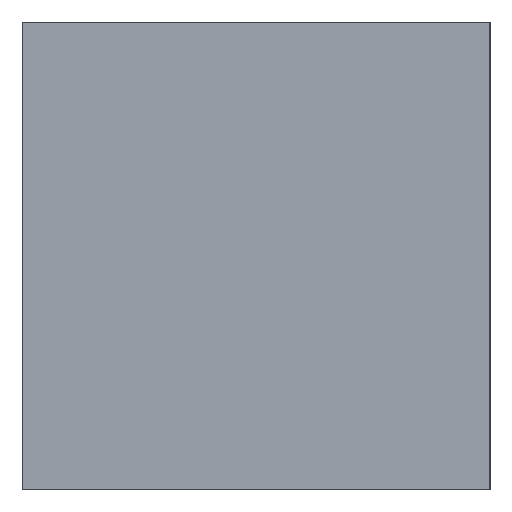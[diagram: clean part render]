
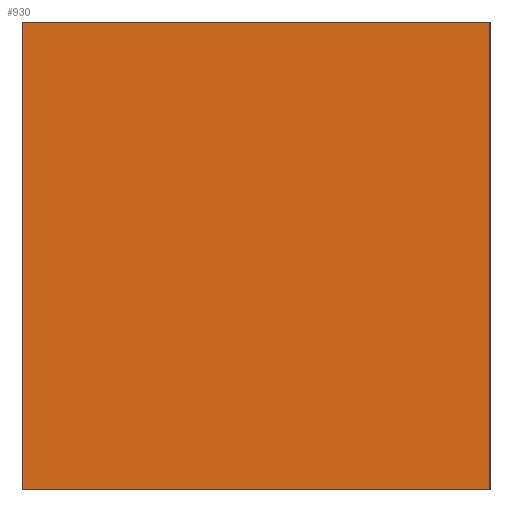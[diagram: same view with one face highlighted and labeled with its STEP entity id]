
A CAD part, left-side view. The second image highlights one B-rep face of the part: STEP entity #930.
In plain terms, the highlighted planar face has unit normal (-1, 0, 0).
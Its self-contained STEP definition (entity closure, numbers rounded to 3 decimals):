
#796=CARTESIAN_POINT('',(-0.597,-0.356,0.0));
#795=VERTEX_POINT('',#796);
#814=CARTESIAN_POINT('',(-0.597,-0.356,0.711));
#813=VERTEX_POINT('',#814);
#822=EDGE_CURVE('',#795,#813,#827,.T.);
#827=LINE('',#796,#829);
#829=VECTOR('',#830,0.711);
#830=DIRECTION('',(0.0,0.0,1.0));
#892=CARTESIAN_POINT('',(-0.597,0.356,0.0));
#891=VERTEX_POINT('',#892);
#902=CARTESIAN_POINT('',(-0.597,0.356,0.711));
#901=VERTEX_POINT('',#902);
#900=EDGE_CURVE('',#901,#891,#905,.T.);
#905=LINE('',#902,#907);
#907=VECTOR('',#908,0.711);
#908=DIRECTION('',(0.0,0.0,-1.0));
#930=ADVANCED_FACE('',(#936),#931,.T.);
#931=PLANE('',#932);
#932=AXIS2_PLACEMENT_3D('',#933,#934,#935);
#933=CARTESIAN_POINT('',(-0.597,0.356,0.0));
#934=DIRECTION('',(-1.0,0.0,0.0));
#935=DIRECTION('',(0.,0.,1.));
#936=FACE_OUTER_BOUND('',#937,.T.);
#937=EDGE_LOOP('',(#938,#948,#958,#968));
#939=EDGE_CURVE('',#795,#891,#944,.T.);
#944=LINE('',#796,#946);
#946=VECTOR('',#947,0.711);
#947=DIRECTION('',(0.0,1.0,0.0));
#938=ORIENTED_EDGE('',*,*,#939,.F.);
#948=ORIENTED_EDGE('',*,*,#822,.T.);
#959=EDGE_CURVE('',#901,#813,#964,.T.);
#964=LINE('',#902,#966);
#966=VECTOR('',#967,0.711);
#967=DIRECTION('',(0.0,-1.0,0.0));
#958=ORIENTED_EDGE('',*,*,#959,.F.);
#968=ORIENTED_EDGE('',*,*,#900,.T.);
